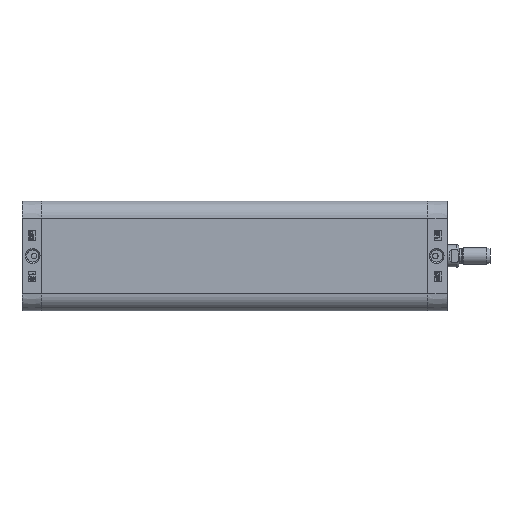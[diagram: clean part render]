
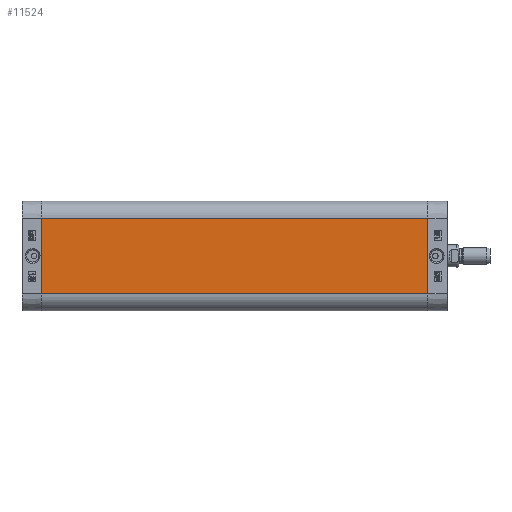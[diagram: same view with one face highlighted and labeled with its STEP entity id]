
A CAD part, left-side view. The second image highlights one B-rep face of the part: STEP entity #11524.
In plain terms, the highlighted planar face has unit normal (-1, 0, 0).
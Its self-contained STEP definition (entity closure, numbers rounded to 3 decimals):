
#5854=CARTESIAN_POINT('',(-38.5,-271.5,26.5));
#5855=VERTEX_POINT('',#5854);
#5862=CARTESIAN_POINT('',(-38.5,-271.5,-26.5));
#5863=VERTEX_POINT('',#5862);
#5864=CARTESIAN_POINT('',(-38.5,-271.5,-26.5));
#5865=DIRECTION('',(0.0,0.0,1.0));
#5866=VECTOR('',#5865,53.0);
#5867=LINE('',#5864,#5866);
#5868=EDGE_CURVE('',#5863,#5855,#5867,.T.);
#11482=CARTESIAN_POINT('',(-38.5,0.0,-26.5));
#11483=VERTEX_POINT('',#11482);
#11484=CARTESIAN_POINT('',(-38.5,0.0,-26.5));
#11485=DIRECTION('',(0.0,-1.0,0.0));
#11486=VECTOR('',#11485,271.5);
#11487=LINE('',#11484,#11486);
#11488=EDGE_CURVE('',#11483,#5863,#11487,.T.);
#11501=CARTESIAN_POINT('',(-38.5,0.0,-26.5));
#11502=DIRECTION('',(-1.0,0.0,0.0));
#11503=DIRECTION('',(0.0,0.0,1.0));
#11504=AXIS2_PLACEMENT_3D('',#11501,#11502,#11503);
#11505=PLANE('',#11504);
#11506=ORIENTED_EDGE('',*,*,#5868,.T.);
#11507=CARTESIAN_POINT('',(-38.5,0.0,26.5));
#11508=VERTEX_POINT('',#11507);
#11509=CARTESIAN_POINT('',(-38.5,0.0,26.5));
#11510=DIRECTION('',(0.0,-1.0,0.0));
#11511=VECTOR('',#11510,271.5);
#11512=LINE('',#11509,#11511);
#11513=EDGE_CURVE('',#11508,#5855,#11512,.T.);
#11514=ORIENTED_EDGE('',*,*,#11513,.F.);
#11515=CARTESIAN_POINT('',(-38.5,0.0,-26.5));
#11516=DIRECTION('',(0.0,0.0,1.0));
#11517=VECTOR('',#11516,53.0);
#11518=LINE('',#11515,#11517);
#11519=EDGE_CURVE('',#11483,#11508,#11518,.T.);
#11520=ORIENTED_EDGE('',*,*,#11519,.F.);
#11521=ORIENTED_EDGE('',*,*,#11488,.T.);
#11522=EDGE_LOOP('',(#11506,#11514,#11520,#11521));
#11523=FACE_OUTER_BOUND('',#11522,.T.);
#11524=ADVANCED_FACE('',(#11523),#11505,.T.);
